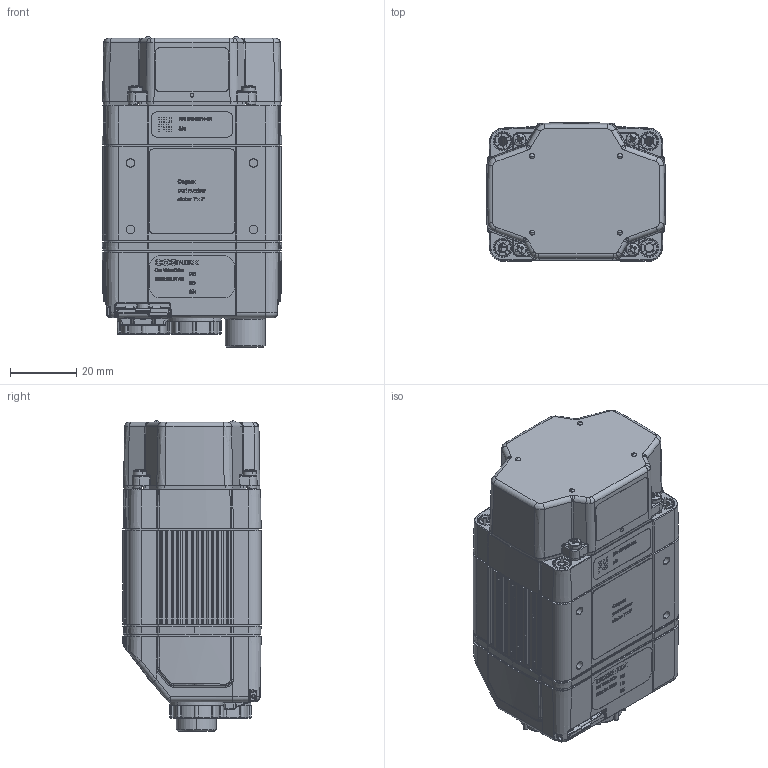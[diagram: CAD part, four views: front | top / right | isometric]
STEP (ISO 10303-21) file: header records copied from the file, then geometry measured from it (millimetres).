
FILE_DESCRIPTION (( 'STEP AP214' ), '1' );
FILE_NAME ('DM360_Mounting_Flat_Front_Cover.STEP', '2015-04-27T14:03:18', ( '' ), ( '' ), 'SwSTEP 2.0', 'SolidWorks 2014', '' );
FILE_SCHEMA (( 'AUTOMOTIVE_DESIGN' ));
Length unit declared in the file: millimetre
Products named in the file (2): DM360_Mounting_Flat_Front_Cover
Bounding box: 54 x 41.6 x 93.51 mm (x, y, z)
Surface area: 27923.7 mm2 (no closed solid volume)
Topology: 0 solids, 107 shells, 1783 faces, 7276 edges, 5573 vertices
Faces by surface type: plane 676, cylinder 479, bspline 260, cone 203, torus 144, sphere 21
Entity records: 115255 total; most frequent: CARTESIAN_POINT 39212, ORIENTED_EDGE 11435, DIRECTION 10605, EDGE_CURVE 7249, VERTEX_POINT 5573, AXIS2_PLACEMENT_3D 3641, LINE 3323, VECTOR 3323
